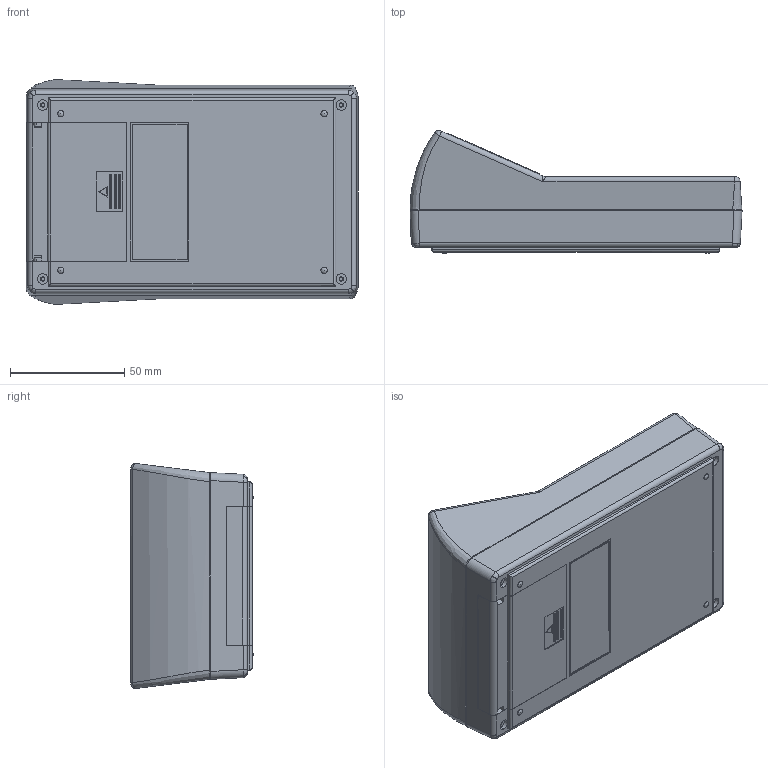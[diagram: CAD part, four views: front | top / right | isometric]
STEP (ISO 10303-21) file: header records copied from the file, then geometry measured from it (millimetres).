
FILE_DESCRIPTION (( 'STEP AP214' ), '1' );
FILE_NAME ('90-53-2A-R.STEP', '2020-10-16T13:44:38', ( 'Rudy' ), ( '' ), 'SwSTEP 2.0', 'SolidWorks 2014', '' );
FILE_SCHEMA (( 'AUTOMOTIVE_DESIGN' ));
Length unit declared in the file: millimetre
Products named in the file (6): 90 PCB 2AA; 2AAdoor; 90-bessel; Top Angled LCD; 90-2AA; 90-53-2A-R
Assembly tree (5 placements, depth 2):
  90-53-2A-R
    90-2AA
    Top Angled LCD
    90-bessel
    2AAdoor
    90 PCB 2AA
Bounding box: 145.5 x 53.82 x 98.54 mm (x, y, z)
Volume: 142242.4 mm3; surface area: 121663.6 mm2
Topology: 5 solids, 5 shells, 660 faces, 1728 edges, 1108 vertices
Faces by surface type: plane 417, cylinder 145, cone 44, torus 24, bspline 20, sphere 10
Entity records: 21211 total; most frequent: CARTESIAN_POINT 4857, ORIENTED_EDGE 3416, DIRECTION 3242, EDGE_CURVE 1708, VECTOR 1236, LINE 1236, VERTEX_POINT 1100, AXIS2_PLACEMENT_3D 1003
